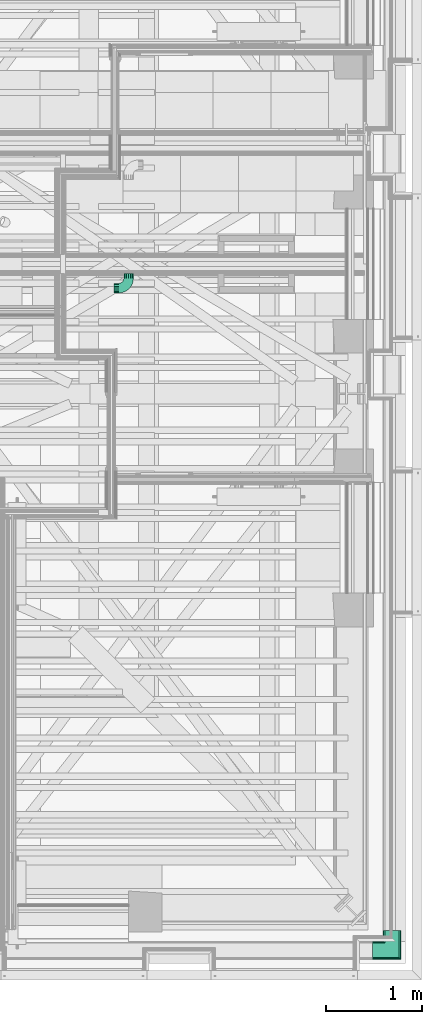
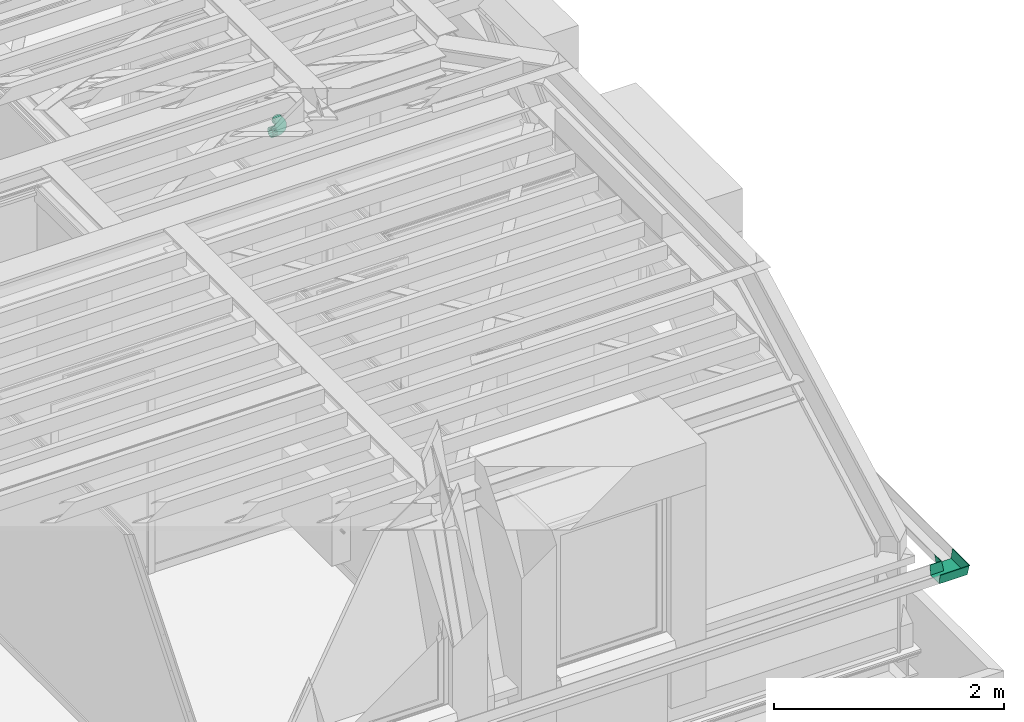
# One storey, part 176 of 183: 2 flow fittings.
"""IFC2X3 building model written with IfcOpenShell, lengths in metres."""

from ifc_helpers import new_model, entity, si_unit, converted_unit, derived_unit, money_unit, direction, frame, origin_with_axes, place, context, subcontext, project, spatial, open_shell, faceted_brep, surface_model, material, type_object, element, save


model = new_model("IFC2X3")

# Units and contexts
model_context = context("Model", 3, precision=1e-05, world=origin_with_axes(), true_north=direction((0.0, 1.0)))
body_context = subcontext(model_context, "Body", "Model", "MODEL_VIEW", scale=1.0)
ifc_project = project(units=[si_unit("LENGTHUNIT", "METRE"), si_unit("AREAUNIT", "SQUARE_METRE"), si_unit("VOLUMEUNIT", "CUBIC_METRE"), si_unit("ABSORBEDDOSEUNIT", "GRAY"), si_unit("AMOUNTOFSUBSTANCEUNIT", "MOLE"), si_unit("DOSEEQUIVALENTUNIT", "SIEVERT"), si_unit("ELECTRICCAPACITANCEUNIT", "FARAD"), si_unit("ELECTRICCHARGEUNIT", "COULOMB"), si_unit("ELECTRICCONDUCTANCEUNIT", "SIEMENS"), si_unit("ELECTRICCURRENTUNIT", "AMPERE"), si_unit("ELECTRICRESISTANCEUNIT", "OHM"), si_unit("ELECTRICVOLTAGEUNIT", "VOLT"), si_unit("ENERGYUNIT", "JOULE"), si_unit("FORCEUNIT", "NEWTON"), si_unit("FREQUENCYUNIT", "HERTZ"), si_unit("ILLUMINANCEUNIT", "LUX"), si_unit("INDUCTANCEUNIT", "HENRY"), si_unit("LUMINOUSFLUXUNIT", "LUMEN"), si_unit("LUMINOUSINTENSITYUNIT", "CANDELA"), si_unit("MAGNETICFLUXDENSITYUNIT", "TESLA"), si_unit("MAGNETICFLUXUNIT", "WEBER"), si_unit("MASSUNIT", "GRAM"), converted_unit("PLANEANGLEUNIT", "degree", entity("IfcReal", 0.0174532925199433), si_unit("PLANEANGLEUNIT", "RADIAN"), dimensions=[0, 0, 0, 0, 0, 0, 0]), si_unit("POWERUNIT", "WATT"), si_unit("PRESSUREUNIT", "PASCAL"), si_unit("RADIOACTIVITYUNIT", "BECQUEREL"), si_unit("SOLIDANGLEUNIT", "STERADIAN"), si_unit("THERMODYNAMICTEMPERATUREUNIT", "KELVIN"), si_unit("TIMEUNIT", "SECOND"), derived_unit("ACCELERATIONUNIT", [(si_unit("LENGTHUNIT", "METRE"), 1), (si_unit("TIMEUNIT", "SECOND"), -2)]), derived_unit("ANGULARVELOCITYUNIT", [(converted_unit("PLANEANGLEUNIT", "degree", entity("IfcReal", 0.0174532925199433), si_unit("PLANEANGLEUNIT", "RADIAN"), dimensions=[0, 0, 0, 0, 0, 0, 0]), 1), (si_unit("TIMEUNIT", "SECOND"), -1)]), derived_unit("CURVATUREUNIT", [(converted_unit("PLANEANGLEUNIT", "degree", entity("IfcReal", 0.0174532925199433), si_unit("PLANEANGLEUNIT", "RADIAN"), dimensions=[0, 0, 0, 0, 0, 0, 0]), 1), (si_unit("LENGTHUNIT", "METRE"), -1)]), derived_unit("DYNAMICVISCOSITYUNIT", [(si_unit("PRESSUREUNIT", "PASCAL"), 1), (si_unit("TIMEUNIT", "SECOND"), 1)]), derived_unit("HEATFLUXDENSITYUNIT", [(si_unit("POWERUNIT", "WATT"), 1), (si_unit("LENGTHUNIT", "METRE"), -2)]), derived_unit("HEATINGVALUEUNIT", [(si_unit("ENERGYUNIT", "JOULE"), 1), (si_unit("MASSUNIT", "GRAM"), -1)]), derived_unit("INTEGERCOUNTRATEUNIT", [(si_unit("TIMEUNIT", "SECOND"), -1)]), derived_unit("IONCONCENTRATIONUNIT", [(si_unit("MASSUNIT", "GRAM"), 1), (si_unit("VOLUMEUNIT", "CUBIC_METRE"), -1)]), derived_unit("ISOTHERMALMOISTURECAPACITYUNIT", [(si_unit("VOLUMEUNIT", "CUBIC_METRE"), 1), (si_unit("MASSUNIT", "GRAM"), -1)]), derived_unit("KINEMATICVISCOSITYUNIT", [(si_unit("AREAUNIT", "SQUARE_METRE"), 1), (si_unit("TIMEUNIT", "SECOND"), -1)]), derived_unit("LINEARFORCEUNIT", [(si_unit("FORCEUNIT", "NEWTON"), 1), (si_unit("LENGTHUNIT", "METRE"), -1)]), derived_unit("LINEARMOMENTUNIT", [(si_unit("FORCEUNIT", "NEWTON"), 1), (si_unit("LENGTHUNIT", "METRE"), -1)]), derived_unit("LINEARSTIFFNESSUNIT", [(si_unit("FORCEUNIT", "NEWTON"), 1), (si_unit("LENGTHUNIT", "METRE"), -1)]), derived_unit("LINEARVELOCITYUNIT", [(si_unit("LENGTHUNIT", "METRE"), 1), (si_unit("TIMEUNIT", "SECOND"), -1)]), derived_unit("LUMINOUSINTENSITYDISTRIBUTIONUNIT", [(si_unit("LUMINOUSINTENSITYUNIT", "CANDELA"), 1), (si_unit("LUMINOUSFLUXUNIT", "LUMEN"), -1)]), derived_unit("MASSDENSITYUNIT", [(si_unit("MASSUNIT", "GRAM"), 1), (si_unit("VOLUMEUNIT", "CUBIC_METRE"), -1)]), derived_unit("MASSFLOWRATEUNIT", [(si_unit("MASSUNIT", "GRAM"), 1), (si_unit("TIMEUNIT", "SECOND"), -1)]), derived_unit("MASSPERLENGTHUNIT", [(si_unit("MASSUNIT", "GRAM"), 1), (si_unit("LENGTHUNIT", "METRE"), -1)]), derived_unit("MODULUSOFELASTICITYUNIT", [(si_unit("FORCEUNIT", "NEWTON"), 1), (si_unit("AREAUNIT", "SQUARE_METRE"), -1)]), derived_unit("MODULUSOFLINEARSUBGRADEREACTIONUNIT", [(si_unit("FORCEUNIT", "NEWTON"), 1), (si_unit("LENGTHUNIT", "METRE"), -2)]), derived_unit("MODULUSOFROTATIONALSUBGRADEREACTIONUNIT", [(si_unit("FORCEUNIT", "NEWTON"), 1), (si_unit("LENGTHUNIT", "METRE"), 1)]), derived_unit("MODULUSOFSUBGRADEREACTIONUNIT", [(si_unit("FORCEUNIT", "NEWTON"), 1), (si_unit("VOLUMEUNIT", "CUBIC_METRE"), -1)]), derived_unit("MOISTUREDIFFUSIVITYUNIT", [(si_unit("VOLUMEUNIT", "CUBIC_METRE"), 1), (si_unit("TIMEUNIT", "SECOND"), -1)]), derived_unit("MOLECULARWEIGHTUNIT", [(si_unit("MASSUNIT", "GRAM"), 1), (si_unit("AMOUNTOFSUBSTANCEUNIT", "MOLE"), -1)]), derived_unit("PLANARFORCEUNIT", [(si_unit("FORCEUNIT", "NEWTON"), 1), (si_unit("LENGTHUNIT", "METRE"), -2)]), derived_unit("ROTATIONALFREQUENCYUNIT", [(si_unit("TIMEUNIT", "SECOND"), -1)]), derived_unit("ROTATIONALMASSUNIT", [(si_unit("MASSUNIT", "GRAM"), 1), (si_unit("LENGTHUNIT", "METRE"), 2)]), derived_unit("ROTATIONALSTIFFNESSUNIT", [(si_unit("FORCEUNIT", "NEWTON"), 1), (si_unit("LENGTHUNIT", "METRE"), 1), (converted_unit("PLANEANGLEUNIT", "degree", entity("IfcReal", 0.0174532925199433), si_unit("PLANEANGLEUNIT", "RADIAN"), dimensions=[0, 0, 0, 0, 0, 0, 0]), -1)]), derived_unit("SECTIONAREAINTEGRALUNIT", [(si_unit("LENGTHUNIT", "METRE"), 5)]), derived_unit("SECTIONMODULUSUNIT", [(si_unit("LENGTHUNIT", "METRE"), 3)]), derived_unit("SHEARMODULUSUNIT", [(si_unit("FORCEUNIT", "NEWTON"), 1), (si_unit("AREAUNIT", "SQUARE_METRE"), -1)]), derived_unit("SOUNDPOWERUNIT", [(si_unit("ENERGYUNIT", "JOULE"), 1), (si_unit("TIMEUNIT", "SECOND"), -1)]), derived_unit("SPECIFICHEATCAPACITYUNIT", [(si_unit("FORCEUNIT", "NEWTON"), 1), (si_unit("MASSUNIT", "GRAM"), -1), (si_unit("THERMODYNAMICTEMPERATUREUNIT", "KELVIN"), -1)]), derived_unit("TEMPERATUREGRADIENTUNIT", [(si_unit("THERMODYNAMICTEMPERATUREUNIT", "KELVIN"), 1), (si_unit("LENGTHUNIT", "METRE"), -1)]), derived_unit("THERMALADMITTANCEUNIT", [(si_unit("POWERUNIT", "WATT"), 1), (si_unit("AREAUNIT", "SQUARE_METRE"), -1), (si_unit("THERMODYNAMICTEMPERATUREUNIT", "KELVIN"), -1)]), derived_unit("THERMALCONDUCTANCEUNIT", [(si_unit("POWERUNIT", "WATT"), 1), (si_unit("LENGTHUNIT", "METRE"), -1), (si_unit("THERMODYNAMICTEMPERATUREUNIT", "KELVIN"), -1)]), derived_unit("THERMALEXPANSIONCOEFFICIENTUNIT", [(si_unit("THERMODYNAMICTEMPERATUREUNIT", "KELVIN"), -1)]), derived_unit("THERMALRESISTANCEUNIT", [(si_unit("AREAUNIT", "SQUARE_METRE"), 1), (si_unit("POWERUNIT", "WATT"), -1)]), derived_unit("THERMALTRANSMITTANCEUNIT", [(si_unit("POWERUNIT", "WATT"), 1), (si_unit("AREAUNIT", "SQUARE_METRE"), -1), (si_unit("THERMODYNAMICTEMPERATUREUNIT", "KELVIN"), -1)]), derived_unit("TORQUEUNIT", [(si_unit("FORCEUNIT", "NEWTON"), 1), (si_unit("LENGTHUNIT", "METRE"), 1)]), derived_unit("VAPORPERMEABILITYUNIT", [(si_unit("MASSUNIT", "GRAM"), 1), (si_unit("TIMEUNIT", "SECOND"), -1)]), derived_unit("VOLUMETRICFLOWRATEUNIT", [(si_unit("VOLUMEUNIT", "CUBIC_METRE"), 1), (si_unit("TIMEUNIT", "SECOND"), -1)]), derived_unit("WARPINGCONSTANTUNIT", [(si_unit("LENGTHUNIT", "METRE"), 6)]), derived_unit("WARPINGMOMENTUNIT", [(si_unit("FORCEUNIT", "NEWTON"), 1), (si_unit("LENGTHUNIT", "METRE"), 2)]), money_unit("GBP")], contexts=[model_context])

# Site, building, storey, space
site_placement = place(None, origin_with_axes())
site = spatial("IfcSite", under=ifc_project, at=site_placement, Name="Site", CompositionType="ELEMENT")
building_placement = place(site_placement, origin_with_axes())
building = spatial("IfcBuilding", under=site, at=building_placement, Name="Building01", CompositionType="ELEMENT")
storey_placement = place(building_placement, frame((0.0, 0.0, 5.15), z_axis=(0.0, 0.0, 1.0), x_axis=(1.0, 0.0, 0.0)))
storey = spatial("IfcBuildingStorey", under=building, at=storey_placement, Name="1F", CompositionType="ELEMENT", Elevation=5.15)
space_placement = place(storey_placement, frame((23.258821, 7.349915, 9.81), z_axis=(0.0, 0.0, 1.0), x_axis=(0.0, -1.0, 0.0)))
space = spatial("IfcSpace", under=storey, at=space_placement, Name="bath", CompositionType="ELEMENT", InteriorOrExteriorSpace="NOTDEFINED")

# Flow fittings
ifc_material_1 = material(Name="M_BSUK_Ventilation")
duct_fitting_type = type_object("IfcDuctFittingType", Name="M-Roundelbow-DefaultRound", PredefinedType="BEND")
placement = place(building_placement, origin_with_axes())
flow_fitting_1_placement = place(placement, frame((23.93, 7.299939, 17.28), z_axis=(1.0, 0.0, 0.0), x_axis=(0.0, -1.0, 0.0)))
element("IfcFlowFitting", 1, at=flow_fitting_1_placement, inside=space, type_object=duct_fitting_type, material=ifc_material_1, Name="M-Roundelbow-DefaultRound", ObjectType="M-Roundelbow-DefaultRound", context=body_context, shape_type="SurfaceModel", body=[
    surface_model("IfcShellBasedSurfaceModel", [(0.008112, -0.01349, -0.048784), (0.0, -0.01349, -0.048146), (0.0, 0.0, -0.05), (0.007822, 0.0, -0.050616), (0.016024, -0.01349, -0.050684), (0.015451, 0.0, -0.052447), (0.023541, -0.01349, -0.053798), (0.0227, 0.0, -0.05545), (0.030479, -0.01349, -0.058049), (0.029389, 0.0, -0.059549), (0.036666, -0.01349, -0.063334), (0.035355, 0.0, -0.064645), (0.041951, -0.01349, -0.069521), (0.040451, 0.0, -0.070611), (0.046202, -0.01349, -0.076459), (0.04455, 0.0, -0.0773), (0.049316, -0.01349, -0.083976), (0.047553, 0.0, -0.084549), (0.051216, -0.01349, -0.091888), (0.049384, 0.0, -0.092178), (0.051854, -0.01349, -0.1), (0.05, 0.0, -0.1), (0.00896, -0.025979, -0.043426), (0.0, -0.025979, -0.042721), (0.0177, -0.025979, -0.045524), (0.026004, -0.025979, -0.048964), (0.033668, -0.025979, -0.05366), (0.040502, -0.025979, -0.059498), (0.04634, -0.025979, -0.066332), (0.051036, -0.025979, -0.073996), (0.054476, -0.025979, -0.0823), (0.056574, -0.025979, -0.09104), (0.057279, -0.025979, -0.1), (0.010305, -0.036542, -0.034939), (0.0, -0.036542, -0.034128), (0.020356, -0.036542, -0.037352), (0.029905, -0.036542, -0.041307), (0.038719, -0.036542, -0.046708), (0.046579, -0.036542, -0.053421), (0.053292, -0.036542, -0.061281), (0.058693, -0.036542, -0.070095), (0.062648, -0.036542, -0.079644), (0.065061, -0.036542, -0.089695), (0.065872, -0.036542, -0.1), (0.012045, -0.044394, -0.023951), (0.0, -0.044394, -0.023003), (0.023793, -0.044394, -0.026772), (0.034956, -0.044394, -0.031395), (0.045258, -0.044394, -0.037708), (0.054445, -0.044394, -0.045555), (0.062292, -0.044394, -0.054742), (0.068605, -0.044394, -0.065044), (0.073228, -0.044394, -0.076207), (0.076049, -0.044394, -0.087955), (0.076997, -0.044394, -0.1), (0.014052, -0.048954, -0.011279), (0.0, -0.048954, -0.010173), (0.027758, -0.048954, -0.014569), (0.040781, -0.048954, -0.019963), (0.052799, -0.048954, -0.027328), (0.063517, -0.048954, -0.036483), (0.072672, -0.048954, -0.047201), (0.080037, -0.048954, -0.059219), (0.085431, -0.048954, -0.072242), (0.088721, -0.048954, -0.085948), (0.089827, -0.048954, -0.1), (0.016177, -0.049883, 0.002139), (0.0, -0.049883, 0.003412), (0.031956, -0.049883, -0.001649), (0.046948, -0.049883, -0.007859), (0.060784, -0.049883, -0.016338), (0.073123, -0.049883, -0.026877), (0.083662, -0.049883, -0.039216), (0.092141, -0.049883, -0.053052), (0.098351, -0.049883, -0.068044), (0.102139, -0.049883, -0.083823), (0.103412, -0.049883, -0.1), (0.018263, -0.047113, 0.015307), (0.0, -0.047113, 0.016744), (0.036076, -0.047113, 0.01103), (0.053001, -0.047113, 0.00402), (0.06862, -0.047113, -0.005552), (0.08255, -0.047113, -0.01745), (0.094448, -0.047113, -0.03138), (0.10402, -0.047113, -0.046999), (0.11103, -0.047113, -0.063924), (0.115307, -0.047113, -0.081737), (0.116744, -0.047113, -0.1), (0.020154, -0.040848, 0.027248), (0.0, -0.040848, 0.028834), (0.039812, -0.040848, 0.022528), (0.058489, -0.040848, 0.014792), (0.075727, -0.040848, 0.004229), (0.091099, -0.040848, -0.008901), (0.104229, -0.040848, -0.024273), (0.114792, -0.040848, -0.041511), (0.122528, -0.040848, -0.060188), (0.127248, -0.040848, -0.079846), (0.128834, -0.040848, -0.1), (0.021711, -0.031554, 0.037077), (0.0, -0.031554, 0.038786), (0.042887, -0.031554, 0.031993), (0.063007, -0.031554, 0.023659), (0.081576, -0.031554, 0.01228), (0.098136, -0.031554, -0.001864), (0.11228, -0.031554, -0.018424), (0.123659, -0.031554, -0.036993), (0.131993, -0.031554, -0.057113), (0.137077, -0.031554, -0.078289), (0.138786, -0.031554, -0.1), (0.022818, -0.01992, 0.044065), (0.0, -0.01992, 0.045861), (0.045073, -0.01992, 0.038722), (0.066219, -0.01992, 0.029963), (0.085735, -0.01992, 0.018004), (0.103139, -0.01992, 0.003139), (0.118004, -0.01992, -0.014265), (0.129963, -0.01992, -0.033781), (0.138722, -0.01992, -0.054927), (0.144065, -0.01992, -0.077182), (0.145861, -0.01992, -0.1), (0.023392, -0.006808, 0.047693), (0.0, -0.006808, 0.049534), (0.046209, -0.006808, 0.042216), (0.067887, -0.006808, 0.033236), (0.087894, -0.006808, 0.020976), (0.105737, -0.006808, 0.005737), (0.120976, -0.006808, -0.012106), (0.133236, -0.006808, -0.032113), (0.142216, -0.006808, -0.053791), (0.147693, -0.006808, -0.076608), (0.149534, -0.006808, -0.1), (0.023392, 0.006808, 0.047693), (0.0, 0.006808, 0.049534), (0.046209, 0.006808, 0.042216), (0.067887, 0.006808, 0.033236), (0.087894, 0.006808, 0.020976), (0.105737, 0.006808, 0.005737), (0.120976, 0.006808, -0.012106), (0.133236, 0.006808, -0.032113), (0.142216, 0.006808, -0.053791), (0.147693, 0.006808, -0.076608), (0.149534, 0.006808, -0.1), (0.022818, 0.01992, 0.044065), (0.0, 0.01992, 0.045861), (0.045073, 0.01992, 0.038722), (0.066219, 0.01992, 0.029963), (0.085735, 0.01992, 0.018004), (0.103139, 0.01992, 0.003139), (0.118004, 0.01992, -0.014265), (0.129963, 0.01992, -0.033781), (0.138722, 0.01992, -0.054927), (0.144065, 0.01992, -0.077182), (0.145861, 0.01992, -0.1), (0.021711, 0.031554, 0.037077), (0.0, 0.031554, 0.038786), (0.042887, 0.031554, 0.031993), (0.063007, 0.031554, 0.023659), (0.081576, 0.031554, 0.01228), (0.098136, 0.031554, -0.001864), (0.11228, 0.031554, -0.018424), (0.123659, 0.031554, -0.036993), (0.131993, 0.031554, -0.057113), (0.137077, 0.031554, -0.078289), (0.138786, 0.031554, -0.1), (0.020154, 0.040848, 0.027248), (0.0, 0.040848, 0.028834), (0.039812, 0.040848, 0.022528), (0.058489, 0.040848, 0.014792), (0.075727, 0.040848, 0.004229), (0.091099, 0.040848, -0.008901), (0.104229, 0.040848, -0.024273), (0.114792, 0.040848, -0.041511), (0.122528, 0.040848, -0.060188), (0.127248, 0.040848, -0.079846), (0.128834, 0.040848, -0.1), (0.018263, 0.047113, 0.015307), (0.0, 0.047113, 0.016744), (0.036076, 0.047113, 0.01103), (0.053001, 0.047113, 0.00402), (0.06862, 0.047113, -0.005552), (0.08255, 0.047113, -0.01745), (0.094448, 0.047113, -0.03138), (0.10402, 0.047113, -0.046999), (0.11103, 0.047113, -0.063924), (0.115307, 0.047113, -0.081737), (0.116744, 0.047113, -0.1), (0.016177, 0.049883, 0.002139), (0.0, 0.049883, 0.003412), (0.031956, 0.049883, -0.001649), (0.046948, 0.049883, -0.007859), (0.060784, 0.049883, -0.016338), (0.073123, 0.049883, -0.026877), (0.083662, 0.049883, -0.039216), (0.092141, 0.049883, -0.053052), (0.098351, 0.049883, -0.068044), (0.102139, 0.049883, -0.083823), (0.103412, 0.049883, -0.1), (0.014052, 0.048954, -0.011279), (0.0, 0.048954, -0.010173), (0.027758, 0.048954, -0.014569), (0.040781, 0.048954, -0.019963), (0.052799, 0.048954, -0.027328), (0.063517, 0.048954, -0.036483), (0.072672, 0.048954, -0.047201), (0.080037, 0.048954, -0.059219), (0.085431, 0.048954, -0.072242), (0.088721, 0.048954, -0.085948), (0.089827, 0.048954, -0.1), (0.012045, 0.044394, -0.023951), (0.0, 0.044394, -0.023003), (0.023793, 0.044394, -0.026772), (0.034956, 0.044394, -0.031395), (0.045258, 0.044394, -0.037708), (0.054445, 0.044394, -0.045555), (0.062292, 0.044394, -0.054742), (0.068605, 0.044394, -0.065044), (0.073228, 0.044394, -0.076207), (0.076049, 0.044394, -0.087955), (0.076997, 0.044394, -0.1), (0.010305, 0.036542, -0.034939), (0.0, 0.036542, -0.034128), (0.020356, 0.036542, -0.037352), (0.029905, 0.036542, -0.041307), (0.038719, 0.036542, -0.046708), (0.046579, 0.036542, -0.053421), (0.053292, 0.036542, -0.061281), (0.058693, 0.036542, -0.070095), (0.062648, 0.036542, -0.079644), (0.065061, 0.036542, -0.089695), (0.065872, 0.036542, -0.1), (0.00896, 0.025979, -0.043426), (0.0, 0.025979, -0.042721), (0.0177, 0.025979, -0.045524), (0.026004, 0.025979, -0.048964), (0.033668, 0.025979, -0.05366), (0.040502, 0.025979, -0.059498), (0.04634, 0.025979, -0.066332), (0.051036, 0.025979, -0.073996), (0.054476, 0.025979, -0.0823), (0.056574, 0.025979, -0.09104), (0.057279, 0.025979, -0.1), (0.008112, 0.01349, -0.048784), (0.0, 0.01349, -0.048146), (0.016024, 0.01349, -0.050684), (0.023541, 0.01349, -0.053798), (0.030479, 0.01349, -0.058049), (0.036666, 0.01349, -0.063334), (0.041951, 0.01349, -0.069521), (0.046202, 0.01349, -0.076459), (0.049316, 0.01349, -0.083976), (0.051216, 0.01349, -0.091888), (0.051854, 0.01349, -0.1), (-0.05, 0.0, -0.05), (0.0, -0.019134, -0.046194), (-0.05, -0.019134, -0.046194), (0.0, -0.035355, -0.035355), (-0.05, -0.035355, -0.035355), (0.0, -0.046194, -0.019134), (-0.05, -0.046194, -0.019134), (0.0, -0.05, 0.0), (-0.05, -0.05, 0.0), (0.0, -0.046194, 0.019134), (-0.05, -0.046194, 0.019134), (0.0, -0.035355, 0.035355), (-0.05, -0.035355, 0.035355), (0.0, -0.019134, 0.046194), (-0.05, -0.019134, 0.046194), (0.0, 0.0, 0.05), (-0.05, 0.0, 0.05), (0.0, 0.019134, 0.046194), (-0.05, 0.019134, 0.046194), (0.0, 0.035355, 0.035355), (-0.05, 0.035355, 0.035355), (0.0, 0.046194, 0.019134), (-0.05, 0.046194, 0.019134), (0.0, 0.05, 0.0), (-0.05, 0.05, 0.0), (0.0, 0.046194, -0.019134), (-0.05, 0.046194, -0.019134), (0.0, 0.035355, -0.035355), (-0.05, 0.035355, -0.035355), (0.0, 0.019134, -0.046194), (-0.05, 0.019134, -0.046194), (0.05, 0.0, -0.15), (0.053806, 0.019134, -0.1), (0.053806, 0.019134, -0.15), (0.064645, 0.035355, -0.1), (0.064645, 0.035355, -0.15), (0.080866, 0.046194, -0.1), (0.080866, 0.046194, -0.15), (0.1, 0.05, -0.1), (0.1, 0.05, -0.15), (0.119134, 0.046194, -0.1), (0.119134, 0.046194, -0.15), (0.135355, 0.035355, -0.1), (0.135355, 0.035355, -0.15), (0.146194, 0.019134, -0.1), (0.146194, 0.019134, -0.15), (0.15, 0.0, -0.1), (0.15, 0.0, -0.15), (0.146194, -0.019134, -0.1), (0.146194, -0.019134, -0.15), (0.135355, -0.035355, -0.1), (0.135355, -0.035355, -0.15), (0.119134, -0.046194, -0.1), (0.119134, -0.046194, -0.15), (0.1, -0.05, -0.1), (0.1, -0.05, -0.15), (0.080866, -0.046194, -0.1), (0.080866, -0.046194, -0.15), (0.064645, -0.035355, -0.1), (0.064645, -0.035355, -0.15), (0.053806, -0.019134, -0.1), (0.053806, -0.019134, -0.15)], [open_shell([[[0, 1, 2, 3]], [[4, 0, 3, 5]], [[6, 4, 5, 7]], [[8, 6, 7, 9]], [[10, 8, 9, 11]], [[12, 10, 11, 13]], [[14, 12, 13, 15]], [[16, 14, 15, 17]], [[18, 16, 17, 19]], [[20, 18, 19, 21]], [[22, 23, 1, 0]], [[24, 22, 0, 4]], [[25, 24, 4, 6]], [[26, 25, 6, 8]], [[27, 26, 8, 10]], [[28, 27, 10, 12]], [[29, 28, 12, 14]], [[30, 29, 14, 16]], [[31, 30, 16, 18]], [[32, 31, 18, 20]], [[33, 34, 23, 22]], [[35, 33, 22, 24]], [[36, 35, 24, 25]], [[37, 36, 25, 26]], [[38, 37, 26, 27]], [[39, 38, 27, 28]], [[40, 39, 28, 29]], [[41, 40, 29, 30]], [[42, 41, 30, 31]], [[43, 42, 31, 32]], [[44, 45, 34, 33]], [[46, 44, 33, 35]], [[47, 46, 35, 36]], [[48, 47, 36, 37]], [[49, 48, 37, 38]], [[50, 49, 38, 39]], [[51, 50, 39, 40]], [[52, 51, 40, 41]], [[53, 52, 41, 42]], [[54, 53, 42, 43]], [[55, 56, 45, 44]], [[57, 55, 44, 46]], [[58, 57, 46, 47]], [[59, 58, 47, 48]], [[60, 59, 48, 49]], [[61, 60, 49, 50]], [[62, 61, 50, 51]], [[63, 62, 51, 52]], [[64, 63, 52, 53]], [[65, 64, 53, 54]], [[66, 67, 56, 55]], [[68, 66, 55, 57]], [[69, 68, 57, 58]], [[70, 69, 58, 59]], [[71, 70, 59, 60]], [[72, 71, 60, 61]], [[73, 72, 61, 62]], [[74, 73, 62, 63]], [[75, 74, 63, 64]], [[76, 75, 64, 65]], [[77, 78, 67, 66]], [[79, 77, 66, 68]], [[80, 79, 68, 69]], [[81, 80, 69, 70]], [[82, 81, 70, 71]], [[83, 82, 71, 72]], [[84, 83, 72, 73]], [[85, 84, 73, 74]], [[86, 85, 74, 75]], [[87, 86, 75, 76]], [[88, 89, 78, 77]], [[90, 88, 77, 79]], [[91, 90, 79, 80]], [[92, 91, 80, 81]], [[93, 92, 81, 82]], [[94, 93, 82, 83]], [[95, 94, 83, 84]], [[96, 95, 84, 85]], [[97, 96, 85, 86]], [[98, 97, 86, 87]], [[99, 100, 89, 88]], [[101, 99, 88, 90]], [[102, 101, 90, 91]], [[103, 102, 91, 92]], [[104, 103, 92, 93]], [[105, 104, 93, 94]], [[106, 105, 94, 95]], [[107, 106, 95, 96]], [[108, 107, 96, 97]], [[109, 108, 97, 98]], [[110, 111, 100, 99]], [[112, 110, 99, 101]], [[113, 112, 101, 102]], [[114, 113, 102, 103]], [[115, 114, 103, 104]], [[116, 115, 104, 105]], [[117, 116, 105, 106]], [[118, 117, 106, 107]], [[119, 118, 107, 108]], [[120, 119, 108, 109]], [[121, 122, 111, 110]], [[123, 121, 110, 112]], [[124, 123, 112, 113]], [[125, 124, 113, 114]], [[126, 125, 114, 115]], [[127, 126, 115, 116]], [[128, 127, 116, 117]], [[129, 128, 117, 118]], [[130, 129, 118, 119]], [[131, 130, 119, 120]], [[132, 133, 122, 121]], [[134, 132, 121, 123]], [[135, 134, 123, 124]], [[136, 135, 124, 125]], [[137, 136, 125, 126]], [[138, 137, 126, 127]], [[139, 138, 127, 128]], [[140, 139, 128, 129]], [[141, 140, 129, 130]], [[142, 141, 130, 131]], [[143, 144, 133, 132]], [[145, 143, 132, 134]], [[146, 145, 134, 135]], [[147, 146, 135, 136]], [[148, 147, 136, 137]], [[149, 148, 137, 138]], [[150, 149, 138, 139]], [[151, 150, 139, 140]], [[152, 151, 140, 141]], [[153, 152, 141, 142]], [[154, 155, 144, 143]], [[156, 154, 143, 145]], [[157, 156, 145, 146]], [[158, 157, 146, 147]], [[159, 158, 147, 148]], [[160, 159, 148, 149]], [[161, 160, 149, 150]], [[162, 161, 150, 151]], [[163, 162, 151, 152]], [[164, 163, 152, 153]], [[165, 166, 155, 154]], [[167, 165, 154, 156]], [[168, 167, 156, 157]], [[169, 168, 157, 158]], [[170, 169, 158, 159]], [[171, 170, 159, 160]], [[172, 171, 160, 161]], [[173, 172, 161, 162]], [[174, 173, 162, 163]], [[175, 174, 163, 164]], [[176, 177, 166, 165]], [[178, 176, 165, 167]], [[179, 178, 167, 168]], [[180, 179, 168, 169]], [[181, 180, 169, 170]], [[182, 181, 170, 171]], [[183, 182, 171, 172]], [[184, 183, 172, 173]], [[185, 184, 173, 174]], [[186, 185, 174, 175]], [[187, 188, 177, 176]], [[189, 187, 176, 178]], [[190, 189, 178, 179]], [[191, 190, 179, 180]], [[192, 191, 180, 181]], [[193, 192, 181, 182]], [[194, 193, 182, 183]], [[195, 194, 183, 184]], [[196, 195, 184, 185]], [[197, 196, 185, 186]], [[198, 199, 188, 187]], [[200, 198, 187, 189]], [[201, 200, 189, 190]], [[202, 201, 190, 191]], [[203, 202, 191, 192]], [[204, 203, 192, 193]], [[205, 204, 193, 194]], [[206, 205, 194, 195]], [[207, 206, 195, 196]], [[208, 207, 196, 197]], [[209, 210, 199, 198]], [[211, 209, 198, 200]], [[212, 211, 200, 201]], [[213, 212, 201, 202]], [[214, 213, 202, 203]], [[215, 214, 203, 204]], [[216, 215, 204, 205]], [[217, 216, 205, 206]], [[218, 217, 206, 207]], [[219, 218, 207, 208]], [[220, 221, 210, 209]], [[222, 220, 209, 211]], [[223, 222, 211, 212]], [[224, 223, 212, 213]], [[225, 224, 213, 214]], [[226, 225, 214, 215]], [[227, 226, 215, 216]], [[228, 227, 216, 217]], [[229, 228, 217, 218]], [[230, 229, 218, 219]], [[231, 232, 221, 220]], [[233, 231, 220, 222]], [[234, 233, 222, 223]], [[235, 234, 223, 224]], [[236, 235, 224, 225]], [[237, 236, 225, 226]], [[238, 237, 226, 227]], [[239, 238, 227, 228]], [[240, 239, 228, 229]], [[241, 240, 229, 230]], [[242, 243, 232, 231]], [[244, 242, 231, 233]], [[245, 244, 233, 234]], [[246, 245, 234, 235]], [[247, 246, 235, 236]], [[248, 247, 236, 237]], [[249, 248, 237, 238]], [[250, 249, 238, 239]], [[251, 250, 239, 240]], [[252, 251, 240, 241]], [[3, 2, 243, 242]], [[5, 3, 242, 244]], [[7, 5, 244, 245]], [[9, 7, 245, 246]], [[11, 9, 246, 247]], [[13, 11, 247, 248]], [[15, 13, 248, 249]], [[17, 15, 249, 250]], [[19, 17, 250, 251]], [[21, 19, 251, 252]], [[253, 2, 254, 255]], [[255, 254, 256, 257]], [[257, 256, 258, 259]], [[259, 258, 260, 261]], [[261, 260, 262, 263]], [[263, 262, 264, 265]], [[265, 264, 266, 267]], [[267, 266, 268, 269]], [[269, 268, 270, 271]], [[271, 270, 272, 273]], [[273, 272, 274, 275]], [[275, 274, 276, 277]], [[277, 276, 278, 279]], [[279, 278, 280, 281]], [[281, 280, 282, 283]], [[283, 282, 2, 253]], [[284, 21, 285, 286]], [[286, 285, 287, 288]], [[288, 287, 289, 290]], [[290, 289, 291, 292]], [[292, 291, 293, 294]], [[294, 293, 295, 296]], [[296, 295, 297, 298]], [[298, 297, 299, 300]], [[300, 299, 301, 302]], [[302, 301, 303, 304]], [[304, 303, 305, 306]], [[306, 305, 307, 308]], [[308, 307, 309, 310]], [[310, 309, 311, 312]], [[312, 311, 313, 314]], [[314, 313, 21, 284]]])]),
])
ifc_material_2 = material(Name="A_BSUK_RainwaterDrainageSystems")
pipe_fitting_type = type_object("IfcPipeFittingType", Name="A-RainwaterDrainageSystems-GutterCorner", PredefinedType="NOTDEFINED")
flow_fitting_2_placement = place(storey_placement, frame((26.465654, 0.514347, 10.629268), z_axis=(0.0, 0.0, 1.0), x_axis=(-1.0, 0.0, 0.0)))
element("IfcFlowFitting", 2, at=flow_fitting_2_placement, inside=storey, type_object=pipe_fitting_type, material=ifc_material_2, Name="A-RainwaterDrainageSystems-GutterCorner", ObjectType="A-RainwaterDrainageSystems-GutterCorner", context=body_context, shape_type="Brep", body=[
    faceted_brep([(-0.111195, 1e-06, 0.100732), (-0.118241, 1e-06, 0.100732), (-0.131294, 1e-06, 0.001588), (-0.279902, 1e-06, 0.001588), (-0.292954, 1e-06, 0.100732), (-0.3, 1e-06, 0.100732), (-0.3, 1e-06, 0.099145), (-0.294346, 1e-06, 0.099145), (-0.281294, 1e-06, 0.0), (-0.129902, 1e-06, 0.0), (-0.116849, 1e-06, 0.099145), (-0.111195, 1e-06, 0.099145), (0.0, 0.111195, 0.099145), (0.0, 0.116849, 0.099145), (0.0, 0.129902, 0.0), (0.0, 0.281294, 0.0), (0.0, 0.294347, 0.099145), (0.0, 0.300001, 0.099145), (0.0, 0.300001, 0.100732), (0.0, 0.292954, 0.100732), (0.0, 0.279902, 0.001588), (0.0, 0.131294, 0.001588), (0.0, 0.118241, 0.100732), (0.0, 0.111195, 0.100732), (-0.111195, 0.111195, 0.099145), (-0.111195, 0.111195, 0.100732), (-0.118241, 0.118241, 0.100732), (-0.131294, 0.131294, 0.001588), (-0.279902, 0.279902, 0.001588), (-0.292954, 0.292954, 0.100732), (-0.3, 0.300001, 0.100732), (-0.3, 0.300001, 0.099145), (-0.294346, 0.294347, 0.099145), (-0.281294, 0.281294, 0.0), (-0.129902, 0.129902, 0.0), (-0.116849, 0.116849, 0.099145)], [[[0, 1, 2, 3, 4, 5, 6, 7, 8, 9, 10, 11]], [[12, 13, 14, 15, 16, 17, 18, 19, 20, 21, 22, 23]], [[24, 12, 23, 25]], [[0, 25, 23, 22, 26, 1]], [[26, 22, 21, 27]], [[1, 26, 27, 2]], [[2, 27, 21, 20, 28, 3]], [[28, 20, 19, 29]], [[3, 28, 29, 4]], [[4, 29, 19, 18, 30, 5]], [[30, 18, 17, 31]], [[5, 30, 31, 6]], [[6, 31, 17, 16, 32, 7]], [[32, 16, 15, 33]], [[7, 32, 33, 8]], [[8, 33, 15, 14, 34, 9]], [[34, 14, 13, 35]], [[9, 34, 35, 10]], [[10, 35, 13, 12, 24, 11]], [[11, 24, 25, 0]]]),
])

save(model, "model.ifc")
